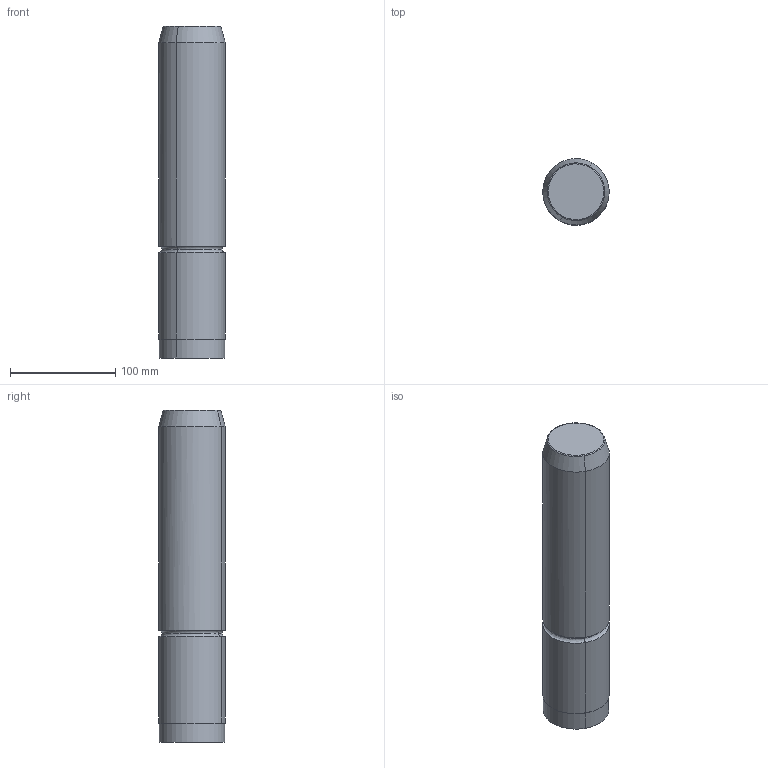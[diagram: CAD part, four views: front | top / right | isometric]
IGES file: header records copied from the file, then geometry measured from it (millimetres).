
Start section: START RECORD GO HERE.
Global section: file name: M104-63x315.igs; native system: DASSAULT SYSTEMES CATIA V5 R20 - www.3ds.com; preprocessor: CATIA Version 5 Release 20 ; author: Utente; organization: NB04-ASUS; date: 20201226.222118; units: millimetre
Bounding box: 62.98 x 62.99 x 315 mm (x, y, z)
Surface area: 68161.5 mm2 (no closed solid volume)
Topology: 0 solids, 0 shells, 17 faces, 64 edges, 64 vertices
Faces by surface type: revolution 14, plane 3
